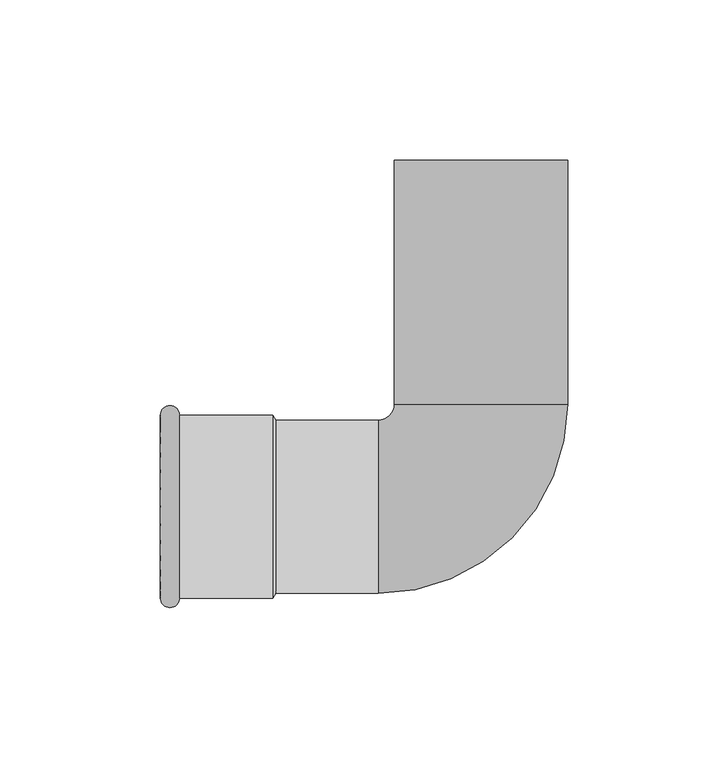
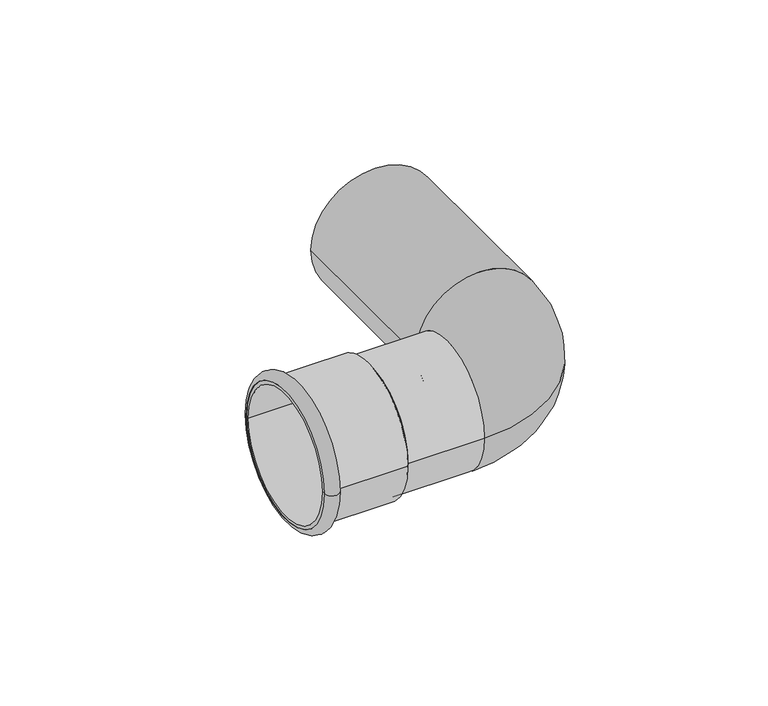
"""IFC4 building model written with IfcOpenShell, lengths in millimetres: pipe fitting geometry, NLRS_50_PIF_UN_Geberit Mapress Therm bocht met insteekeinde_PRO_3207565 : DN12-100 / d15-108 - OD."""

import ifcopenshell
import ifcopenshell.guid

model = None  # the IFC model being written
_history = None  # IfcOwnerHistory: only IFC2X3 demands one
_inside = {}  # id of a spatial element -> (the spatial element, [elements in it])
_under = {}  # id of a project, library or spatial element -> (it, [spatial elements below it])
_declared = {}  # id of a project -> (the project, [libraries it declares])
_typed = {}  # id of a type object -> (the type object, [elements of that type])
_made_of = {}  # id of a material, layer set ... -> (it, [elements and type objects made of it])


def new_model(schema):
    """Start an empty IFC model of exactly this schema.

    Asked for "IFC4X3", IfcOpenShell would pick the latest addendum, in which some entities
    have other attributes; the version numbers below select the first issue.
    IFC2X3 requires an IfcOwnerHistory on every rooted entity: one is made here for all.
    """
    global model, _history
    if schema == "IFC4X3":
        model = ifcopenshell.file(schema_version=(4, 3, 0, 0))
    else:
        model = ifcopenshell.file(schema=schema)
    _inside.clear()
    _under.clear()
    _declared.clear()
    _typed.clear()
    _made_of.clear()
    _history = None
    if model.schema == "IFC2X3":
        org = make("IfcOrganization", Name="unknown")
        user = make(
            "IfcPersonAndOrganization",
            ThePerson=make("IfcPerson", FamilyName="unknown"),
            TheOrganization=org,
        )
        app = make(
            "IfcApplication",
            ApplicationDeveloper=org,
            Version="unknown",
            ApplicationFullName="unknown",
            ApplicationIdentifier="unknown",
        )
        _history = make(
            "IfcOwnerHistory",
            OwningUser=user,
            OwningApplication=app,
            ChangeAction="ADDED",
            CreationDate=0,
        )
    return model


def make(cls, **values):
    """One entity of the class cls with the attributes given. An attribute that is None is left unset."""
    return model.create_entity(
        cls, **{name: value for name, value in values.items() if value is not None}
    )


def rooted(cls, **values):
    """An entity with a GlobalId (a new one), such as an element, a storey or a relation."""
    return make(cls, GlobalId=ifcopenshell.guid.new(), OwnerHistory=_history, **values)


def si_unit(unit_type, name, prefix=None):
    """IfcSIUnit, for example si_unit("LENGTHUNIT", "METRE", prefix="MILLI")."""
    return make("IfcSIUnit", UnitType=unit_type, Prefix=prefix, Name=name)


def assignment(units):
    """IfcUnitAssignment: the units of a project."""
    return None if units is None else make("IfcUnitAssignment", Units=units)


def point(xyz):
    """IfcCartesianPoint."""
    return None if xyz is None else make("IfcCartesianPoint", Coordinates=xyz)


def direction(xyz):
    """IfcDirection."""
    return None if xyz is None else make("IfcDirection", DirectionRatios=xyz)


def frame(location, z_axis=None, x_axis=None):
    """IfcAxis2Placement3D, a coordinate frame: its origin and axes. An axis left out is left unset."""
    return make(
        "IfcAxis2Placement3D",
        Location=point(location),
        Axis=direction(z_axis),
        RefDirection=direction(x_axis),
    )


def origin():
    """The frame at (0, 0, 0) with its axes left unset."""
    return frame((0.0, 0.0, 0.0))


def place(relative_to, where):
    """IfcLocalPlacement: puts the frame where relative to a parent placement (None: the world)."""
    return make(
        "IfcLocalPlacement", PlacementRelTo=relative_to, RelativePlacement=where
    )


def context(
    kind, dimensions, precision=None, world=None, true_north=None, identifier=None
):
    """IfcGeometricRepresentationContext, for example the 3D "Model" context."""
    return make(
        "IfcGeometricRepresentationContext",
        ContextIdentifier=identifier,
        ContextType=kind,
        CoordinateSpaceDimension=dimensions,
        Precision=precision,
        WorldCoordinateSystem=world,
        TrueNorth=true_north,
    )


def project(units=None, contexts=None):
    """IfcProject with its units and contexts."""
    return rooted(
        "IfcProject",
        Name="project",
        RepresentationContexts=contexts,
        UnitsInContext=assignment(units),
    )


def spatial(cls, under=None, at=None, **own):
    """A site, building, storey or space (cls), placed at a placement, below another one or the project."""
    s = rooted(cls, ObjectPlacement=at, **own)
    if under is not None:
        _under.setdefault(under.id(), (under, []))[1].append(s)
    return s


def polyline(points):
    """IfcPolyline through the points."""
    return make("IfcPolyline", Points=[point(p) for p in points])


def circle_curve(where, radius):
    """IfcCircle in the frame where."""
    return make("IfcCircle", Position=where, Radius=radius)


def ellipse_curve(where, semi_axis1, semi_axis2):
    """IfcEllipse in the frame where."""
    return make(
        "IfcEllipse", Position=where, SemiAxis1=semi_axis1, SemiAxis2=semi_axis2
    )


def trimmed(basis, trim1, trim2, sense, master):
    """IfcTrimmedCurve: the piece of a basis curve between two trims."""
    return make(
        "IfcTrimmedCurve",
        BasisCurve=basis,
        Trim1=trim1,
        Trim2=trim2,
        SenseAgreement=sense,
        MasterRepresentation=master,
    )


def shape(context_of_items, identifier, shape_type, items):
    """IfcShapeRepresentation: the items that make up one representation, for example the "Body"."""
    return make(
        "IfcShapeRepresentation",
        ContextOfItems=context_of_items,
        RepresentationIdentifier=identifier,
        RepresentationType=shape_type,
        Items=items,
    )


def source(mapping_origin, context_of_items, identifier, shape_type, items):
    """IfcRepresentationMap: a shape defined once, which mapped items show again and again."""
    return make(
        "IfcRepresentationMap",
        MappingOrigin=mapping_origin,
        MappedRepresentation=shape(context_of_items, identifier, shape_type, items),
    )


def transform(
    local_origin,
    x_axis=None,
    y_axis=None,
    z_axis=None,
    scale=None,
    scale2=None,
    scale3=None,
    uniform=True,
):
    """IfcCartesianTransformationOperator3D, or its non-uniform kind. x_axis, y_axis, z_axis: its Axis1, 2, 3."""
    if uniform:
        return make(
            "IfcCartesianTransformationOperator3D",
            Axis1=direction(x_axis),
            Axis2=direction(y_axis),
            LocalOrigin=point(local_origin),
            Scale=scale,
            Axis3=direction(z_axis),
        )
    return make(
        "IfcCartesianTransformationOperator3DnonUniform",
        Axis1=direction(x_axis),
        Axis2=direction(y_axis),
        LocalOrigin=point(local_origin),
        Scale=scale,
        Axis3=direction(z_axis),
        Scale2=scale2,
        Scale3=scale3,
    )


def mapped(mapping_source, mapping_target):
    """IfcMappedItem: shows the shape of a source again, moved by a transform."""
    return make(
        "IfcMappedItem", MappingSource=mapping_source, MappingTarget=mapping_target
    )


def made_of(thing, what):
    """Note that an element or type object is made of a material, layer set ...; save() writes the relation."""
    if what is not None:
        _made_of.setdefault(what.id(), (what, []))[1].append(thing)
    return thing


def element(
    cls,
    number,
    at=None,
    inside=None,
    cuts=None,
    type_object=None,
    material=None,
    context=None,
    identifier="Body",
    shape_type=None,
    held_by="IfcProductDefinitionShape",
    body=None,
    shapes=None,
    **own,
):
    """One element of the class cls, such as IfcWall. Its Tag is "e" and its number.

    at: its placement. inside: the storey or other place that contains it. cuts: it is an
    opening in that element (IfcRelVoidsElement). A single representation is given by context,
    identifier, shape_type and body (its items); several are given by shapes. held_by: the class
    of the entity that holds the representations. save() writes the other relations.
    """
    e = rooted(cls, Tag="e%d" % number, ObjectPlacement=at, **own)
    if body is not None:
        shapes = [shape(context, identifier, shape_type, body)]
    if shapes is not None:
        e.Representation = make(held_by, Representations=shapes)
    if inside is not None:
        _inside.setdefault(inside.id(), (inside, []))[1].append(e)
    if cuts is not None:
        rooted(
            "IfcRelVoidsElement", RelatingBuildingElement=cuts, RelatedOpeningElement=e
        )
    if type_object is not None:
        _typed.setdefault(type_object.id(), (type_object, []))[1].append(e)
    return made_of(e, material)


def aggregate(whole, parts):
    """IfcRelAggregates: a whole, such as a stair, and the parts it consists of."""
    return rooted("IfcRelAggregates", RelatingObject=whole, RelatedObjects=parts)


def save(model, path):
    """Write the relations noted so far, then the file.

    IfcRelAggregates (storeys below a building ...), IfcRelContainedInSpatialStructure (elements
    in a storey), IfcRelDefinesByType, IfcRelAssociatesMaterial and IfcRelDeclares: one each for
    every whole, place, type object, material and project.
    """
    for whole, parts in _under.values():
        aggregate(whole, parts)
    for where, things in _inside.values():
        rooted(
            "IfcRelContainedInSpatialStructure",
            RelatedElements=things,
            RelatingStructure=where,
        )
    for kind, things in _typed.values():
        rooted("IfcRelDefinesByType", RelatedObjects=things, RelatingType=kind)
    for what, things in _made_of.values():
        rooted("IfcRelAssociatesMaterial", RelatedObjects=things, RelatingMaterial=what)
    for by, libraries in _declared.values():
        rooted("IfcRelDeclares", RelatingContext=by, RelatedDefinitions=libraries)
    model.write(path)


def plane_surface(at):
    """IfcPlane: the flat surface through the origin of the frame at, square to its z axis."""
    return make("IfcPlane", Position=at)


def cylinder_surface(at, radius):
    """IfcCylindricalSurface: all points at the distance radius from the z axis of the frame at."""
    return make("IfcCylindricalSurface", Position=at, Radius=radius)


def revolved_surface(curve, axis_point, axis_direction):
    """IfcSurfaceOfRevolution: the curve turned about the line through axis_point along axis_direction."""
    return make(
        "IfcSurfaceOfRevolution",
        SweptCurve=make("IfcArbitraryOpenProfileDef", ProfileType="CURVE", Curve=curve),
        AxisPosition=make("IfcAxis1Placement", Location=point(axis_point), Axis=direction(axis_direction)),
    )


def advanced_brep(points, edges, surfaces, faces):
    """IfcAdvancedBrep: a solid bounded by faces that lie on surfaces and meet in shared edges.

    An edge is (start, end): straight between two places in points (the first is 0);
    or (start, end, curve); or (start, end, curve, False) where it runs against its curve.
    A face is (place in surfaces, loops), or (place, loops, False) where it looks against
    its surface's normal. A loop lists edges by number (the first is 1), with a minus sign
    where the edge is run from its end to its start. The first loop is the outer one.
    """
    corners = [point(p) for p in points]
    vertices = [make("IfcVertexPoint", VertexGeometry=c) for c in corners]
    made = []
    for start, end, *more in edges:
        made.append(
            make(
                "IfcEdgeCurve",
                EdgeStart=vertices[start],
                EdgeEnd=vertices[end],
                EdgeGeometry=more[0] if more else make("IfcPolyline", Points=[corners[start], corners[end]]),
                SameSense=more[1] if len(more) > 1 else True,
            )
        )
    hull = []
    for where, loops, *sense in faces:
        bounds = []
        for j, loop in enumerate(loops):
            ring = [make("IfcOrientedEdge", EdgeElement=made[abs(k) - 1], Orientation=k > 0) for k in loop]
            bounds.append(
                make(
                    "IfcFaceOuterBound" if j == 0 else "IfcFaceBound",
                    Bound=make("IfcEdgeLoop", EdgeList=ring),
                    Orientation=True,
                )
            )
        hull.append(make("IfcAdvancedFace", Bounds=bounds, FaceSurface=surfaces[where], SameSense=sense[0] if sense else True))
    return make("IfcAdvancedBrep", Outer=make("IfcClosedShell", CfsFaces=hull))


def pipe_fitting_fd989550(model_context):
    return source(origin(), model_context, "Body", "AdvancedBrep", [
        advanced_brep(
        [(-100.0, 28.5, 0.0), (-100.0, -28.5, 0.0), (-93.9987073, -28.5, 0.0), (-93.9987073, 28.5, 0.0)],
        [
            (0, 1, circle_curve(frame((-100.0, 0.0, 0.0), z_axis=(-1.0, -3.3460763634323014e-12, 0.0), x_axis=(3.3460763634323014e-12, -1.0, 0.0)), 28.5)),
            (1, 2),
            (2, 3, circle_curve(frame((-93.9987073, 0.0, 0.0), z_axis=(1.0, 3.3460763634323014e-12, 0.0), x_axis=(3.3460763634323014e-12, -1.0, 0.0)), 28.5)),
            (3, 0),
            (1, 0, circle_curve(frame((-100.0, 0.0, 0.0), z_axis=(-1.0, -3.3460763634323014e-12, 0.0), x_axis=(3.3460763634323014e-12, -1.0, 0.0)), 28.5)),
            (3, 2, circle_curve(frame((-93.9987073, 0.0, 0.0), z_axis=(1.0, 3.3460763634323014e-12, 0.0), x_axis=(3.3460763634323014e-12, -1.0, 0.0)), 28.5)),
            (2, 1, circle_curve(frame((-96.9993536, -28.5, 0.0), z_axis=(0.0, 0.0, -1.0), x_axis=(-1.0, -3.345166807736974e-12, 0.0)), 3.0006464)),
            (0, 3, circle_curve(frame((-96.9993536, 28.5, 0.0), z_axis=(0.0, 0.0, -1.0), x_axis=(-1.0, -3.346985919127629e-12, 0.0)), 3.0006464)),
        ],
        [
            revolved_surface(polyline([(-93.99870729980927, -28.50000000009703, 0.0), (-100.0, -28.50000000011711, 0.0)]), (-65.0, 0.0, 0.0), (1.0, 3.3460763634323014e-12, 0.0)),
            revolved_surface(trimmed(ellipse_curve(frame((-96.9993536, -28.5, 0.0), z_axis=(0.0, 0.0, 1.0), x_axis=(-1.0, -3.345166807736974e-12, 0.0)), 3.0006464, 3.0006464), [point((-100.0, -28.5, 0.0))], [point((-93.9987073, -28.5, 0.0))], True, "CARTESIAN"), (-65.0, 0.0, 0.0), (1.0, 3.3460763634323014e-12, 0.0)),
        ],
        [
            (0, [[1, 2, 3, 4]]),
            (0, [[5, -4, 6, -2]]),
            (1, [[-3, 7, -1, 8]]),
            (1, [[-6, -8, -5, -7]]),
        ],
    ),
        advanced_brep(
        [(-100.0, 27.0, 0.0), (-100.0, -27.0, 0.0), (-64.0, -27.0, 0.0), (-64.0, 27.0, 0.0), (-100.0, 28.5, 0.0), (-100.0, -28.5, 0.0), (-65.0, 28.5, 0.0), (-65.0, -28.5, 0.0)],
        [
            (0, 1, circle_curve(frame((-100.0, 0.0, 0.0), z_axis=(-1.0, -3.345166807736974e-12, 0.0), x_axis=(3.345166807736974e-12, -1.0, 0.0)), 27.0)),
            (1, 2),
            (2, 3, circle_curve(frame((-64.0, 0.0, 0.0), z_axis=(1.0, 3.345166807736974e-12, 0.0), x_axis=(3.345166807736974e-12, -1.0, 0.0)), 27.0)),
            (3, 0),
            (1, 0, circle_curve(frame((-100.0, 0.0, 0.0), z_axis=(-1.0, -3.345166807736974e-12, 0.0), x_axis=(3.345166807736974e-12, -1.0, 0.0)), 27.0)),
            (3, 2, circle_curve(frame((-64.0, 0.0, 0.0), z_axis=(1.0, 3.345166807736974e-12, 0.0), x_axis=(3.345166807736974e-12, -1.0, 0.0)), 27.0)),
            (4, 5, circle_curve(frame((-100.0, 0.0, 0.0), z_axis=(-1.0, -3.345166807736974e-12, 0.0), x_axis=(3.345166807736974e-12, -1.0, 0.0)), 28.5)),
            (5, 1),
            (0, 4),
            (5, 4, circle_curve(frame((-100.0, 0.0, 0.0), z_axis=(-1.0, -3.345166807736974e-12, 0.0), x_axis=(3.345166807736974e-12, -1.0, 0.0)), 28.5)),
            (6, 7, circle_curve(frame((-65.0, 0.0, 0.0), z_axis=(-1.0, -3.345166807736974e-12, 0.0), x_axis=(3.345166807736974e-12, -1.0, 0.0)), 28.5)),
            (7, 5),
            (4, 6),
            (7, 6, circle_curve(frame((-65.0, 0.0, 0.0), z_axis=(-1.0, -3.345166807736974e-12, 0.0), x_axis=(3.345166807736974e-12, -1.0, 0.0)), 28.5)),
            (2, 7),
            (6, 3),
        ],
        [
            revolved_surface(polyline([(-63.99999999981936, -26.999999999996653, 0.0), (-100.0, -27.00000000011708, 0.0)]), (-65.0, 0.0, 0.0), (1.0, 3.345166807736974e-12, 0.0)),
            plane_surface(frame((-100.0, 0.0, 0.0), z_axis=(-1.0, -3.345166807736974e-12, 0.0), x_axis=(3.345166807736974e-12, -1.0, 0.0))),
            cylinder_surface(frame((-65.0, 0.0, 0.0), z_axis=(1.0, 3.345166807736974e-12, 0.0), x_axis=(3.345166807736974e-12, -1.0, 0.0)), 28.5),
            revolved_surface(polyline([(-65.0, -28.5, 0.0), (-64.0, -27.0, 0.0)]), (-65.0, 0.0, 0.0), (1.0, 3.345166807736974e-12, 0.0)),
        ],
        [
            (0, [[1, 2, 3, 4]]),
            (0, [[5, -4, 6, -2]]),
            (1, [[7, 8, -1, 9]]),
            (1, [[10, -9, -5, -8]]),
            (2, [[11, 12, -7, 13]]),
            (2, [[14, -13, -10, -12]]),
            (3, [[-3, 15, -11, 16]]),
            (3, [[-6, -16, -14, -15]]),
        ],
    ),
        advanced_brep(
        [(-27.0, 108.0, 0.0), (27.0, 108.0, 0.0), (-32.0, -27.0, 0.0), (-32.0, 27.0, 0.0), (-65.0, 27.0, 0.0), (-65.0, -27.0, 0.0), (-27.0, 32.0, 0.0), (27.0, 32.0, 0.0)],
        [
            (0, 1, circle_curve(frame((0.0, 108.0, 0.0), z_axis=(0.0, 1.0, 0.0), x_axis=(1.0, 0.0, 0.0)), 27.0)),
            (1, 0, circle_curve(frame((0.0, 108.0, 0.0), z_axis=(0.0, 1.0, 0.0), x_axis=(1.0, 0.0, 0.0)), 27.0)),
            (2, 3, circle_curve(frame((-32.0, 0.0, 0.0), z_axis=(-1.0, 0.0, 0.0), x_axis=(0.0, -1.0, 0.0)), 27.0)),
            (3, 4),
            (4, 5, circle_curve(frame((-65.0, 0.0, 0.0), z_axis=(1.0, 0.0, 0.0), x_axis=(0.0, -1.0, 0.0)), 27.0)),
            (5, 2),
            (3, 2, circle_curve(frame((-32.0, 0.0, 0.0), z_axis=(-1.0, 0.0, 0.0), x_axis=(0.0, -1.0, 0.0)), 27.0)),
            (5, 4, circle_curve(frame((-65.0, 0.0, 0.0), z_axis=(1.0, 0.0, 0.0), x_axis=(0.0, -1.0, 0.0)), 27.0)),
            (0, 6),
            (6, 7, circle_curve(frame((0.0, 32.0, 0.0), z_axis=(0.0, 1.0, 0.0), x_axis=(1.0, 0.0, 0.0)), 27.0)),
            (7, 1),
            (7, 6, circle_curve(frame((0.0, 32.0, 0.0), z_axis=(0.0, 1.0, 0.0), x_axis=(1.0, 0.0, 0.0)), 27.0)),
            (2, 7, circle_curve(frame((-32.0, 32.0, 0.0), z_axis=(0.0, 0.0, 1.0), x_axis=(1.0, 0.0, 0.0)), 59.0)),
            (6, 3, circle_curve(frame((-32.0, 32.0, 0.0), z_axis=(0.0, 0.0, -1.0), x_axis=(1.0, 0.0, 0.0)), 5.0)),
        ],
        [
            plane_surface(frame((0.0, 108.0, 0.0), z_axis=(0.0, 1.0, 0.0), x_axis=(0.0, 0.0, 1.0))),
            cylinder_surface(frame((-32.0, 0.0, 0.0), z_axis=(1.0, 0.0, 0.0), x_axis=(0.0, -1.0, 0.0)), 27.0),
            plane_surface(frame((-65.0, 0.0, 0.0), z_axis=(-1.0, 0.0, 0.0), x_axis=(0.0, 0.0, 1.0))),
            cylinder_surface(frame((0.0, 108.0, 0.0), z_axis=(0.0, 1.0, 0.0), x_axis=(1.0, 0.0, 0.0)), 27.0),
            revolved_surface(trimmed(ellipse_curve(frame((0.0, 32.0, 0.0), z_axis=(0.0, 1.0, 0.0), x_axis=(1.0, 0.0, 0.0)), 27.0, 27.0), [point((-27.0, 32.0, 0.0))], [point((27.0, 32.0, 0.0))], True, "CARTESIAN"), (-32.0, 32.0, 0.0), (0.0, 0.0, -1.0)),
            revolved_surface(trimmed(ellipse_curve(frame((0.0, 32.0, 0.0), z_axis=(0.0, 1.0, 0.0), x_axis=(1.0, 0.0, 0.0)), 27.0, 27.0), [point((27.0, 32.0, 0.0))], [point((-27.0, 32.0, 0.0))], True, "CARTESIAN"), (-32.0, 32.0, 0.0), (0.0, 0.0, -1.0)),
        ],
        [
            (0, [[1, 2]]),
            (1, [[3, 4, 5, 6]]),
            (1, [[7, -6, 8, -4]]),
            (2, [[-8, -5]]),
            (3, [[-1, 9, 10, 11]]),
            (3, [[-2, -11, 12, -9]]),
            (4, [[13, -10, 14, -3]]),
            (5, [[-14, -12, -13, -7]]),
        ],
    ),
    ])


if __name__ == "__main__":
    model = new_model("IFC4")
    model_context = context("Model", 3, world=origin())
    ifc_project = project(units=[si_unit("LENGTHUNIT", "METRE", prefix="MILLI")], contexts=[model_context])
    site = spatial("IfcSite", under=ifc_project)
    building = spatial("IfcBuilding", under=site)
    placement = place(None, origin())
    pipe_fitting_shape = pipe_fitting_fd989550(model_context)
    element("IfcPipeFitting", 1, ObjectType="NLRS_50_PIF_UN_Geberit Mapress Therm bocht met insteekeinde_PRO_3207565 : DN12-100 / d15-108 - OD", at=placement, inside=building, context=model_context, shape_type="MappedRepresentation", body=[
        mapped(pipe_fitting_shape, transform((0.0, 0.0, 0.0), x_axis=(1.0, 0.0, 0.0), y_axis=(0.0, 1.0, 0.0), z_axis=(0.0, 0.0, 1.0))),
    ])
    save(model, "model.ifc")
